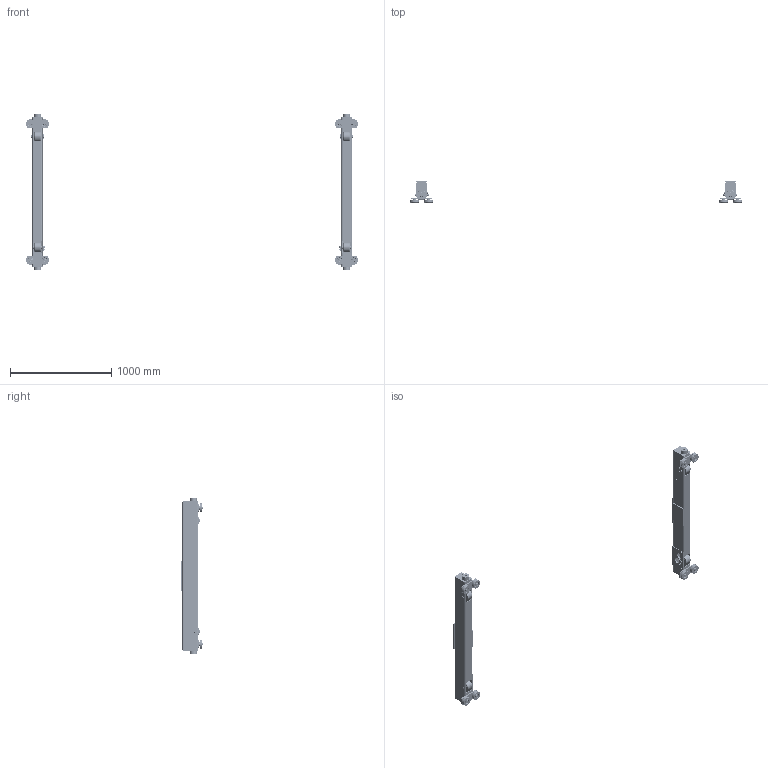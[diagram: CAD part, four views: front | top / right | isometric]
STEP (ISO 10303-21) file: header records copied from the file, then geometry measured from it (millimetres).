
FILE_DESCRIPTION (( 'STEP AP214' ), '1' );
FILE_NAME ('TP-3-0135.STEP', '2026-08-06T14:19:03', ( '' ), ( '' ), 'SwSTEP 2.0', 'SolidWorks 2026', '' );
FILE_SCHEMA (( 'AUTOMOTIVE_DESIGN' ));
Length unit declared in the file: inch
Products named in the file (38): 6240804; 6240801; 6240822; 9093327_9093327; 6240825; N6QO3101108_N6QO3101108; 6240805X_6240805A; 9012514_9012514; 62394_6239401; 62396_0135 - 25# RAIL; 6232404; 6240806; 6232305; N6QO310E9108_N6QO3101108 DOMESTIC; 9000605; N6QO3101102; 6240814; 6240826; 9000705; 9047252_9047252; 62395_0135 - 25# RAIL; N6QL210207; 9047125_B27.7M - 3AM1-23; 6240823; 6240802; 9012711_9012711; T600-400-004 sp_57.125; N6Q0310E9102_Domestic; TP-3-0135; 6240817X_6240817A; 6240803; T600-400-004_57.125; T7G117020; 62393_6239301; 9093101_9093101; 6240813
Assembly tree (103 placements, depth 4):
  TP-3-0135
    62395_0135 - 25# RAIL
      62393_6239301
        T600-400-004_57.125
        6240822
        6240823
      6240806  x2
      6240817X_6240817A  x2
        6240805X_6240805A
        6232305
      6240813
      T7G117020
      6240802
      6240803
      6240804
    62396_0135 - 25# RAIL
      62394_6239401
        T600-400-004 sp_57.125
        6240822
        6240823
      6240806  x2
      6240813
      6240817X_6240817A  x2
        6240805X_6240805A
        6232305
      T7G117020
      6240802
      6240803
      6240804
    6240814  x4
    6240825  x2
    6240826  x2
    9012711_9012711  x10
    9093327_9093327  x6
    N6QL210207  x4
    9012514_9012514  x4
    9093101_9093101  x4
    N6QO3101108_N6QO3101108  x8
      N6QO310E9108_N6QO3101108 DOMESTIC
      9047252_9047252
      9000605
    6232404  x8
    9047125_B27.7M - 3AM1-23  x8
    N6QO3101102  x4
      N6Q0310E9102_Domestic
      9000705
    6240801  x2
Bounding box: 3275.41 x 207.96 x 1548.03 mm (x, y, z)
Volume: 14181268.4 mm3; surface area: 4235191.7 mm2
Topology: 106 solids, 170 shells, 9526 faces, 25344 edges, 16872 vertices
Faces by surface type: plane 6696, cylinder 1574, bspline 840, cone 320, torus 96
Entity records: 57767 total; most frequent: CARTESIAN_POINT 17226, ORIENTED_EDGE 8446, DIRECTION 7641, EDGE_CURVE 4227, VERTEX_POINT 2807, AXIS2_PLACEMENT_3D 2740, LINE 2161, VECTOR 2161
